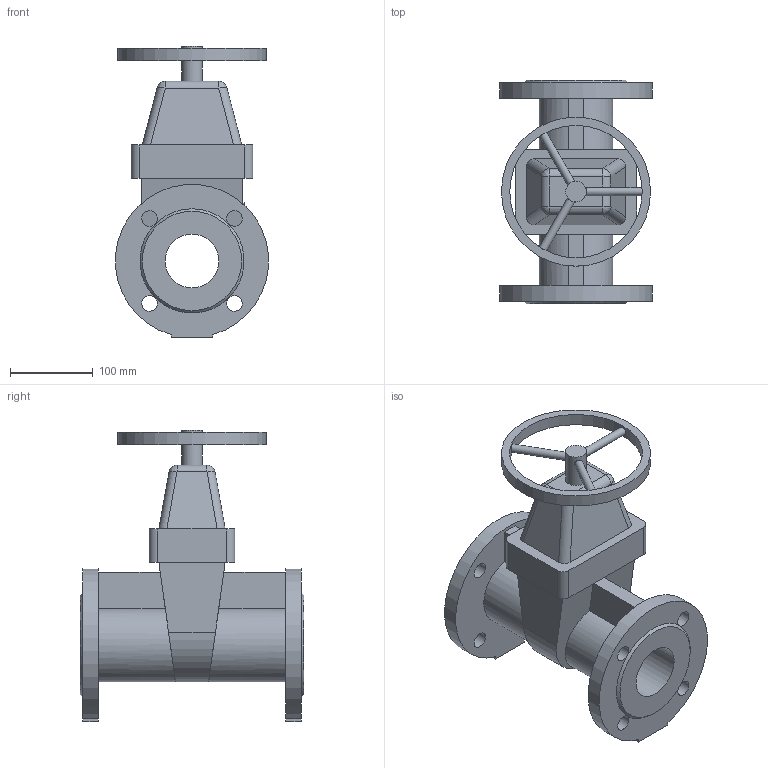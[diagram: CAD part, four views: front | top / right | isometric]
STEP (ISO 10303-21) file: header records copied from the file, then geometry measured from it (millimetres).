
FILE_DESCRIPTION(('STEP AP203'), '1');
FILE_NAME('Çàäâèæêà 47GV DN65 PN10_PN16_L270_W180 ñ ìàõîâèêîì', '', ('UNSPECIFIED'), ('UNSPECIFIED'), 'ASCON STEP Converter 1.6', 'ASCON Math Kernel', '');
FILE_SCHEMA(('CONFIG_CONTROL_DESIGN'));
Length unit declared in the file: millimetre
Bounding box: 184.4 x 270 x 351.5 mm (x, y, z)
Volume: 3585076.3 mm3; surface area: 365808.1 mm2
Topology: 1 solids, 1 shells, 93 faces, 245 edges, 153 vertices
Faces by surface type: plane 47, cylinder 40, bspline 4, cone 2
Full cylindrical faces by diameter (mm): 10 x3, 19 x8, 25 x1, 65 x1, 160 x1, 180 x1
Entity records: 4352 total; most frequent: CARTESIAN_POINT 1416, DIRECTION 436, ORIENTED_EDGE 412, EDGE_CURVE 206, AXIS2_PLACEMENT_3D 158, EDGE_LOOP 146, VERTEX_POINT 144, LINE 120
